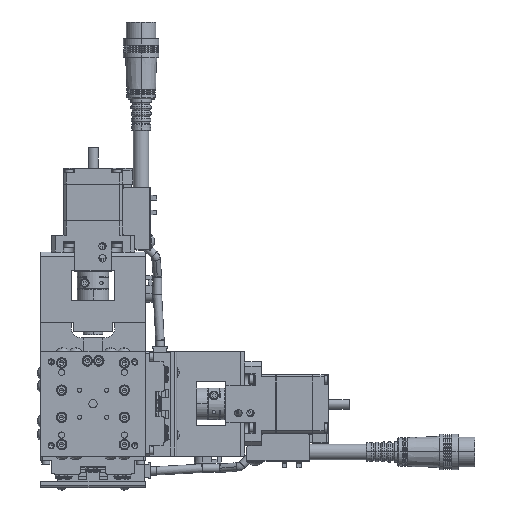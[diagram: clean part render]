
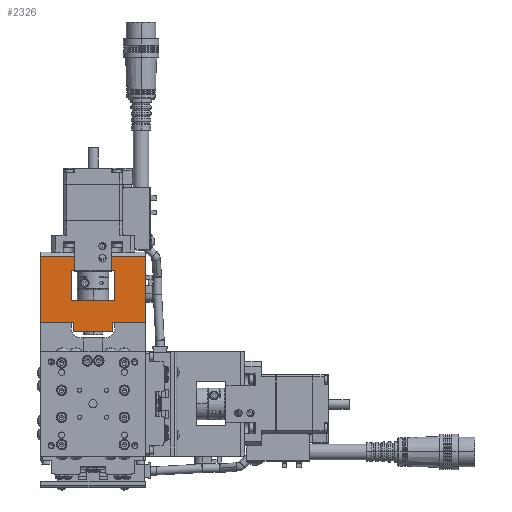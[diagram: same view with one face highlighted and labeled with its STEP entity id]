
A CAD part, top view. The second image highlights one B-rep face of the part: STEP entity #2326.
In plain terms, the highlighted planar face has unit normal (0, 0, 1).
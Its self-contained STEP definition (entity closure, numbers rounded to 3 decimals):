
#899 = EDGE_CURVE ( 'NONE', #92793, #66157, #16988, .T. ) ;
#1167 = CARTESIAN_POINT ( 'NONE',  ( 3.248, 16.3, 144.061 ) ) ;
#1710 = DIRECTION ( 'NONE',  ( 0., -1., 0. ) ) ;
#2326 = ADVANCED_FACE ( 'NONE', ( #93152 ), #98551, .T. ) ;
#3159 = ORIENTED_EDGE ( 'NONE', *, *, #899, .F. ) ;
#4114 = DIRECTION ( 'NONE',  ( 1., 0., 0. ) ) ;
#5214 = VECTOR ( 'NONE', #14489, 1000. ) ;
#6247 = CARTESIAN_POINT ( 'NONE',  ( 10.248, 50., 144.061 ) ) ;
#6621 = DIRECTION ( 'NONE',  ( 0., 1., 0. ) ) ;
#14489 = DIRECTION ( 'NONE',  ( 0., -1., 0. ) ) ;
#15929 = CARTESIAN_POINT ( 'NONE',  ( 10.248, 33.7, 144.061 ) ) ;
#16309 = ORIENTED_EDGE ( 'NONE', *, *, #115927, .F. ) ;
#16988 = LINE ( 'NONE', #123724, #101204 ) ;
#18518 = CARTESIAN_POINT ( 'NONE',  ( 10.248, 50., 144.061 ) ) ;
#18645 = EDGE_CURVE ( 'NONE', #45439, #54290, #119583, .T. ) ;
#18729 = VERTEX_POINT ( 'NONE', #105896 ) ;
#19142 = LINE ( 'NONE', #40049, #123946 ) ;
#20318 = CARTESIAN_POINT ( 'NONE',  ( 10.248, 14.5, 144.061 ) ) ;
#21670 = LINE ( 'NONE', #46109, #69302 ) ;
#22554 = VECTOR ( 'NONE', #26107, 1000. ) ;
#23722 = LINE ( 'NONE', #44023, #117450 ) ;
#26107 = DIRECTION ( 'NONE',  ( 0., 1., 0. ) ) ;
#27318 = LINE ( 'NONE', #15929, #22554 ) ;
#27640 = DIRECTION ( 'NONE',  ( -1., 0., 0. ) ) ;
#29458 = CARTESIAN_POINT ( 'NONE',  ( 24.248, 43.75, 144.061 ) ) ;
#30256 = AXIS2_PLACEMENT_3D ( 'NONE', #6247, #58150, #129080 ) ;
#31674 = CARTESIAN_POINT ( 'NONE',  ( 10.248, 35.5, 144.061 ) ) ;
#32356 = ORIENTED_EDGE ( 'NONE', *, *, #36274, .T. ) ;
#34008 = VERTEX_POINT ( 'NONE', #31674 ) ;
#36119 = CARTESIAN_POINT ( 'NONE',  ( 39.248, 34.5, 144.061 ) ) ;
#36274 = EDGE_CURVE ( 'NONE', #60280, #95436, #37863, .T. ) ;
#37564 = VECTOR ( 'NONE', #27640, 1000. ) ;
#37863 = LINE ( 'NONE', #117293, #90411 ) ;
#38902 = DIRECTION ( 'NONE',  ( 1., 0., 0. ) ) ;
#39400 = LINE ( 'NONE', #18518, #114041 ) ;
#40042 = LINE ( 'NONE', #75827, #5214 ) ;
#40049 = CARTESIAN_POINT ( 'NONE',  ( 3.248, 0., 144.061 ) ) ;
#41125 = CARTESIAN_POINT ( 'NONE',  ( 10.248, 0., 144.061 ) ) ;
#42009 = DIRECTION ( 'NONE',  ( 1., 0., 0. ) ) ;
#43180 = VERTEX_POINT ( 'NONE', #1167 ) ;
#44023 = CARTESIAN_POINT ( 'NONE',  ( 36.998, 34.5, 144.061 ) ) ;
#44371 = CARTESIAN_POINT ( 'NONE',  ( 34.748, 0., 144.061 ) ) ;
#44856 = ORIENTED_EDGE ( 'NONE', *, *, #94022, .T. ) ;
#45439 = VERTEX_POINT ( 'NONE', #84770 ) ;
#46109 = CARTESIAN_POINT ( 'NONE',  ( 34.748, 43.75, 144.061 ) ) ;
#46491 = ORIENTED_EDGE ( 'NONE', *, *, #18645, .T. ) ;
#46767 = EDGE_CURVE ( 'NONE', #43180, #18729, #63734, .T. ) ;
#47673 = CARTESIAN_POINT ( 'NONE',  ( 5.748, 33.7, 144.061 ) ) ;
#48295 = DIRECTION ( 'NONE',  ( 1., 0., 0. ) ) ;
#48626 = DIRECTION ( 'NONE',  ( 0., -1., 0. ) ) ;
#49201 = ORIENTED_EDGE ( 'NONE', *, *, #61423, .T. ) ;
#49688 = CARTESIAN_POINT ( 'NONE',  ( 34.748, 50., 144.061 ) ) ;
#49713 = CARTESIAN_POINT ( 'NONE',  ( 10.248, 35.5, 144.061 ) ) ;
#49911 = VECTOR ( 'NONE', #48626, 1000. ) ;
#53468 = VECTOR ( 'NONE', #80812, 1000. ) ;
#54290 = VERTEX_POINT ( 'NONE', #44371 ) ;
#54961 = ORIENTED_EDGE ( 'NONE', *, *, #111475, .T. ) ;
#58150 = DIRECTION ( 'NONE',  ( 0., 0., 1. ) ) ;
#58624 = EDGE_CURVE ( 'NONE', #70111, #103328, #99542, .T. ) ;
#58907 = EDGE_CURVE ( 'NONE', #54290, #86021, #21670, .T. ) ;
#60280 = VERTEX_POINT ( 'NONE', #72673 ) ;
#61423 = EDGE_CURVE ( 'NONE', #118504, #18729, #110633, .T. ) ;
#61988 = CARTESIAN_POINT ( 'NONE',  ( 10.248, 14.5, 144.061 ) ) ;
#62619 = LINE ( 'NONE', #29458, #49911 ) ;
#63734 = LINE ( 'NONE', #87395, #122454 ) ;
#65428 = EDGE_CURVE ( 'NONE', #60280, #92793, #23722, .T. ) ;
#66157 = VERTEX_POINT ( 'NONE', #130122 ) ;
#69302 = VECTOR ( 'NONE', #6621, 1000. ) ;
#69702 = ORIENTED_EDGE ( 'NONE', *, *, #58907, .T. ) ;
#70111 = VERTEX_POINT ( 'NONE', #83528 ) ;
#70136 = ORIENTED_EDGE ( 'NONE', *, *, #122437, .T. ) ;
#71504 = ORIENTED_EDGE ( 'NONE', *, *, #46767, .F. ) ;
#72577 = VECTOR ( 'NONE', #82652, 1000. ) ;
#72673 = CARTESIAN_POINT ( 'NONE',  ( 34.748, 34.5, 144.061 ) ) ;
#75622 = EDGE_CURVE ( 'NONE', #66157, #86021, #124233, .T. ) ;
#75827 = CARTESIAN_POINT ( 'NONE',  ( 3.248, 33.7, 144.061 ) ) ;
#77166 = VERTEX_POINT ( 'NONE', #110867 ) ;
#80516 = VERTEX_POINT ( 'NONE', #94054 ) ;
#80812 = DIRECTION ( 'NONE',  ( 1., 0., 0. ) ) ;
#81293 = EDGE_CURVE ( 'NONE', #34008, #100433, #90055, .T. ) ;
#82056 = DIRECTION ( 'NONE',  ( 1., 0., 0. ) ) ;
#82652 = DIRECTION ( 'NONE',  ( 0., 1., 0. ) ) ;
#83042 = ORIENTED_EDGE ( 'NONE', *, *, #75622, .F. ) ;
#83528 = CARTESIAN_POINT ( 'NONE',  ( 10.248, 33.7, 144.061 ) ) ;
#84770 = CARTESIAN_POINT ( 'NONE',  ( 3.248, 0., 144.061 ) ) ;
#85005 = CARTESIAN_POINT ( 'NONE',  ( 24.248, 35.5, 144.061 ) ) ;
#85025 = VECTOR ( 'NONE', #82056, 1000. ) ;
#85731 = CARTESIAN_POINT ( 'NONE',  ( 3.248, 33.7, 144.061 ) ) ;
#86021 = VERTEX_POINT ( 'NONE', #120261 ) ;
#87395 = CARTESIAN_POINT ( 'NONE',  ( 5.748, 16.3, 144.061 ) ) ;
#87684 = EDGE_LOOP ( 'NONE', ( #16309, #44856, #90232, #70136, #128085, #54961, #92186, #49201, #71504, #115695, #46491, #69702, #83042, #3159, #105604, #32356 ) ) ;
#89425 = VECTOR ( 'NONE', #42009, 1000. ) ;
#90055 = LINE ( 'NONE', #49713, #53468 ) ;
#90232 = ORIENTED_EDGE ( 'NONE', *, *, #58624, .F. ) ;
#90411 = VECTOR ( 'NONE', #119498, 1000. ) ;
#92186 = ORIENTED_EDGE ( 'NONE', *, *, #129813, .F. ) ;
#92793 = VERTEX_POINT ( 'NONE', #36119 ) ;
#93152 = FACE_OUTER_BOUND ( 'NONE', #87684, .T. ) ;
#94022 = EDGE_CURVE ( 'NONE', #80516, #103328, #40042, .T. ) ;
#94054 = CARTESIAN_POINT ( 'NONE',  ( 3.248, 50., 144.061 ) ) ;
#95436 = VERTEX_POINT ( 'NONE', #49688 ) ;
#98551 = PLANE ( 'NONE',  #30256 ) ;
#99542 = LINE ( 'NONE', #47673, #37564 ) ;
#100433 = VERTEX_POINT ( 'NONE', #85005 ) ;
#100473 = VECTOR ( 'NONE', #122050, 1000. ) ;
#101204 = VECTOR ( 'NONE', #1710, 1000. ) ;
#102081 = CARTESIAN_POINT ( 'NONE',  ( 36.998, 15.5, 144.061 ) ) ;
#103328 = VERTEX_POINT ( 'NONE', #85731 ) ;
#105604 = ORIENTED_EDGE ( 'NONE', *, *, #65428, .F. ) ;
#105896 = CARTESIAN_POINT ( 'NONE',  ( 10.248, 16.3, 144.061 ) ) ;
#110633 = LINE ( 'NONE', #123825, #72577 ) ;
#110867 = CARTESIAN_POINT ( 'NONE',  ( 24.248, 14.5, 144.061 ) ) ;
#111475 = EDGE_CURVE ( 'NONE', #100433, #77166, #62619, .T. ) ;
#113544 = EDGE_CURVE ( 'NONE', #43180, #45439, #19142, .T. ) ;
#114041 = VECTOR ( 'NONE', #38902, 1000. ) ;
#115695 = ORIENTED_EDGE ( 'NONE', *, *, #113544, .T. ) ;
#115927 = EDGE_CURVE ( 'NONE', #80516, #95436, #39400, .T. ) ;
#117293 = CARTESIAN_POINT ( 'NONE',  ( 34.748, 43.75, 144.061 ) ) ;
#117450 = VECTOR ( 'NONE', #4114, 1000. ) ;
#118504 = VERTEX_POINT ( 'NONE', #20318 ) ;
#119498 = DIRECTION ( 'NONE',  ( 0., 1., 0. ) ) ;
#119583 = LINE ( 'NONE', #41125, #89425 ) ;
#120261 = CARTESIAN_POINT ( 'NONE',  ( 34.748, 15.5, 144.061 ) ) ;
#121502 = LINE ( 'NONE', #61988, #85025 ) ;
#122050 = DIRECTION ( 'NONE',  ( -1., 0., 0. ) ) ;
#122437 = EDGE_CURVE ( 'NONE', #70111, #34008, #27318, .T. ) ;
#122454 = VECTOR ( 'NONE', #48295, 1000. ) ;
#122596 = DIRECTION ( 'NONE',  ( 0., -1., 0. ) ) ;
#123724 = CARTESIAN_POINT ( 'NONE',  ( 39.248, 25., 144.061 ) ) ;
#123825 = CARTESIAN_POINT ( 'NONE',  ( 10.248, 0., 144.061 ) ) ;
#123946 = VECTOR ( 'NONE', #122596, 1000. ) ;
#124233 = LINE ( 'NONE', #102081, #100473 ) ;
#128085 = ORIENTED_EDGE ( 'NONE', *, *, #81293, .T. ) ;
#129080 = DIRECTION ( 'NONE',  ( 1., 0., 0. ) ) ;
#129813 = EDGE_CURVE ( 'NONE', #118504, #77166, #121502, .T. ) ;
#130122 = CARTESIAN_POINT ( 'NONE',  ( 39.248, 15.5, 144.061 ) ) ;
